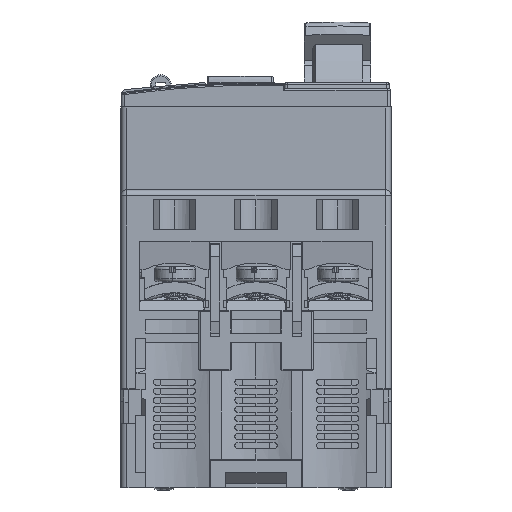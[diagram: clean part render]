
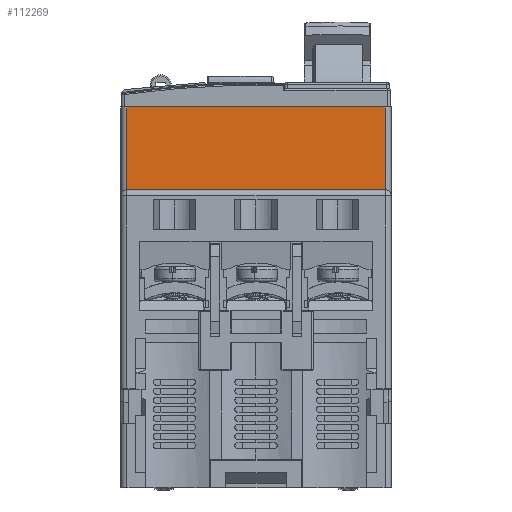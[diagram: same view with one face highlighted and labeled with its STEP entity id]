
A CAD part, left-side view. The second image highlights one B-rep face of the part: STEP entity #112269.
In plain terms, the highlighted planar face has unit normal (-1, 0, 0).
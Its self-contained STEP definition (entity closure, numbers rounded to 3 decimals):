
#10566=DIRECTION('',(0.,0.,-1.));
#10567=VECTOR('',#10566,13.7);
#10568=CARTESIAN_POINT('',(22.3,1.275,31.));
#10569=LINE('',#10568,#10567);
#10670=DIRECTION('',(0.,0.,1.));
#10671=VECTOR('',#10670,13.7);
#10672=CARTESIAN_POINT('',(22.3,43.975,17.3));
#10673=LINE('',#10672,#10671);
#10705=DIRECTION('',(0.,1.,0.));
#10706=VECTOR('',#10705,42.7);
#10707=CARTESIAN_POINT('',(22.3,1.275,31.));
#10708=LINE('',#10707,#10706);
#10709=DIRECTION('',(0.,-1.,0.));
#10710=VECTOR('',#10709,42.7);
#10711=CARTESIAN_POINT('',(22.3,43.975,17.3));
#10712=LINE('',#10711,#10710);
#97254=CARTESIAN_POINT('',(22.3,1.275,31.));
#97255=CARTESIAN_POINT('',(22.3,1.275,17.3));
#97256=VERTEX_POINT('',#97254);
#97257=VERTEX_POINT('',#97255);
#97258=CARTESIAN_POINT('',(22.3,43.975,17.3));
#97259=CARTESIAN_POINT('',(22.3,43.975,31.));
#97260=VERTEX_POINT('',#97258);
#97261=VERTEX_POINT('',#97259);
#112258=CARTESIAN_POINT('',(22.3,0.275,17.3));
#112259=DIRECTION('',(1.,0.,0.));
#112260=DIRECTION('',(0.,0.,1.));
#112261=AXIS2_PLACEMENT_3D('',#112258,#112259,#112260);
#112262=PLANE('',#112261);
#112263=ORIENTED_EDGE('',*,*,#112163,.F.);
#112264=ORIENTED_EDGE('',*,*,#112139,.T.);
#112265=ORIENTED_EDGE('',*,*,#101861,.F.);
#112266=ORIENTED_EDGE('',*,*,#112243,.T.);
#112267=EDGE_LOOP('',(#112263,#112264,#112265,#112266));
#112268=FACE_OUTER_BOUND('',#112267,.F.);
#112269=ADVANCED_FACE('',(#112268),#112262,.F.);
#101861=EDGE_CURVE('',#97260,#97257,#10712,.T.);
#112139=EDGE_CURVE('',#97256,#97257,#10569,.T.);
#112163=EDGE_CURVE('',#97256,#97261,#10708,.T.);
#112243=EDGE_CURVE('',#97260,#97261,#10673,.T.);
